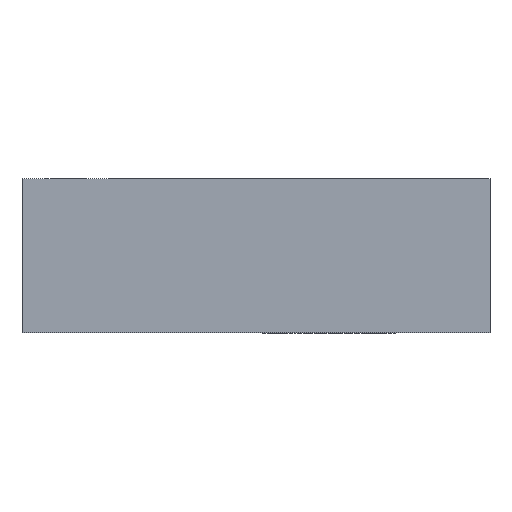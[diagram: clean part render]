
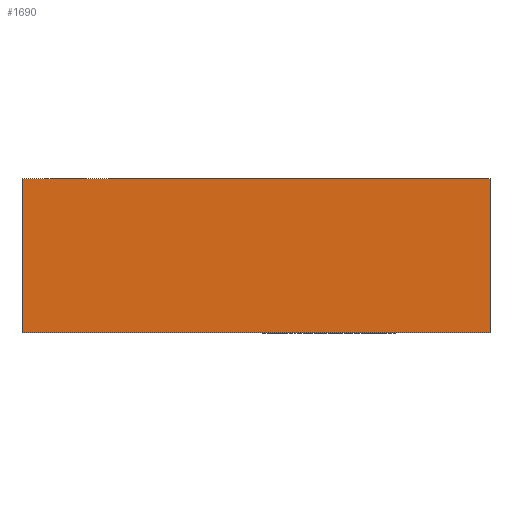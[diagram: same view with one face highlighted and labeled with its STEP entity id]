
A CAD part, top view. The second image highlights one B-rep face of the part: STEP entity #1690.
In plain terms, the highlighted planar face has unit normal (0, 0, 1).
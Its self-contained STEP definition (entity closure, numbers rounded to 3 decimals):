
#44 = PLANE('',#45);
#45 = AXIS2_PLACEMENT_3D('',#46,#47,#48);
#46 = CARTESIAN_POINT('',(35.2,4.5,0.));
#47 = DIRECTION('',(-0.,1.,0.));
#48 = DIRECTION('',(0.,0.,1.));
#352 = VERTEX_POINT('',#353);
#353 = CARTESIAN_POINT('',(10.5,4.5,27.2));
#367 = PLANE('',#368);
#368 = AXIS2_PLACEMENT_3D('',#369,#370,#371);
#369 = CARTESIAN_POINT('',(10.5,4.5,21.2));
#370 = DIRECTION('',(1.,0.,-0.));
#371 = DIRECTION('',(0.,0.,1.));
#379 = EDGE_CURVE('',#380,#352,#382,.T.);
#380 = VERTEX_POINT('',#381);
#381 = CARTESIAN_POINT('',(58.5,4.5,27.2));
#382 = SURFACE_CURVE('',#383,(#387,#394),.PCURVE_S1.);
#383 = LINE('',#384,#385);
#384 = CARTESIAN_POINT('',(58.5,4.5,27.2));
#385 = VECTOR('',#386,1.);
#386 = DIRECTION('',(-1.,0.,0.));
#387 = PCURVE('',#44,#388);
#388 = DEFINITIONAL_REPRESENTATION('',(#389),#393);
#389 = LINE('',#390,#391);
#390 = CARTESIAN_POINT('',(27.2,23.3));
#391 = VECTOR('',#392,1.);
#392 = DIRECTION('',(0.,-1.));
#393 = ( GEOMETRIC_REPRESENTATION_CONTEXT(2) 
PARAMETRIC_REPRESENTATION_CONTEXT() REPRESENTATION_CONTEXT('2D SPACE',''
  ) );
#394 = PCURVE('',#395,#400);
#395 = PLANE('',#396);
#396 = AXIS2_PLACEMENT_3D('',#397,#398,#399);
#397 = CARTESIAN_POINT('',(35.2,4.5,27.2));
#398 = DIRECTION('',(0.,0.,1.));
#399 = DIRECTION('',(1.,0.,-0.));
#400 = DEFINITIONAL_REPRESENTATION('',(#401),#405);
#401 = LINE('',#402,#403);
#402 = CARTESIAN_POINT('',(23.3,0.));
#403 = VECTOR('',#404,1.);
#404 = DIRECTION('',(-1.,0.));
#405 = ( GEOMETRIC_REPRESENTATION_CONTEXT(2) 
PARAMETRIC_REPRESENTATION_CONTEXT() REPRESENTATION_CONTEXT('2D SPACE',''
  ) );
#423 = PLANE('',#424);
#424 = AXIS2_PLACEMENT_3D('',#425,#426,#427);
#425 = CARTESIAN_POINT('',(58.5,4.5,21.2));
#426 = DIRECTION('',(1.,0.,-0.));
#427 = DIRECTION('',(0.,0.,1.));
#665 = PLANE('',#666);
#666 = AXIS2_PLACEMENT_3D('',#667,#668,#669);
#667 = CARTESIAN_POINT('',(10.5,20.3,21.2));
#668 = DIRECTION('',(-0.,1.,0.));
#669 = DIRECTION('',(0.,0.,1.));
#1594 = EDGE_CURVE('',#352,#1595,#1597,.T.);
#1595 = VERTEX_POINT('',#1596);
#1596 = CARTESIAN_POINT('',(10.5,20.3,27.2));
#1597 = SURFACE_CURVE('',#1598,(#1602,#1609),.PCURVE_S1.);
#1598 = LINE('',#1599,#1600);
#1599 = CARTESIAN_POINT('',(10.5,4.5,27.2));
#1600 = VECTOR('',#1601,1.);
#1601 = DIRECTION('',(0.,1.,0.));
#1602 = PCURVE('',#367,#1603);
#1603 = DEFINITIONAL_REPRESENTATION('',(#1604),#1608);
#1604 = LINE('',#1605,#1606);
#1605 = CARTESIAN_POINT('',(6.,0.));
#1606 = VECTOR('',#1607,1.);
#1607 = DIRECTION('',(0.,-1.));
#1608 = ( GEOMETRIC_REPRESENTATION_CONTEXT(2) 
PARAMETRIC_REPRESENTATION_CONTEXT() REPRESENTATION_CONTEXT('2D SPACE',''
  ) );
#1609 = PCURVE('',#395,#1610);
#1610 = DEFINITIONAL_REPRESENTATION('',(#1611),#1615);
#1611 = LINE('',#1612,#1613);
#1612 = CARTESIAN_POINT('',(-24.7,0.));
#1613 = VECTOR('',#1614,1.);
#1614 = DIRECTION('',(0.,1.));
#1615 = ( GEOMETRIC_REPRESENTATION_CONTEXT(2) 
PARAMETRIC_REPRESENTATION_CONTEXT() REPRESENTATION_CONTEXT('2D SPACE',''
  ) );
#1690 = ADVANCED_FACE('',(#1691),#395,.T.);
#1691 = FACE_BOUND('',#1692,.T.);
#1692 = EDGE_LOOP('',(#1693,#1694,#1717,#1738));
#1693 = ORIENTED_EDGE('',*,*,#379,.F.);
#1694 = ORIENTED_EDGE('',*,*,#1695,.T.);
#1695 = EDGE_CURVE('',#380,#1696,#1698,.T.);
#1696 = VERTEX_POINT('',#1697);
#1697 = CARTESIAN_POINT('',(58.5,20.3,27.2));
#1698 = SURFACE_CURVE('',#1699,(#1703,#1710),.PCURVE_S1.);
#1699 = LINE('',#1700,#1701);
#1700 = CARTESIAN_POINT('',(58.5,4.5,27.2));
#1701 = VECTOR('',#1702,1.);
#1702 = DIRECTION('',(0.,1.,0.));
#1703 = PCURVE('',#395,#1704);
#1704 = DEFINITIONAL_REPRESENTATION('',(#1705),#1709);
#1705 = LINE('',#1706,#1707);
#1706 = CARTESIAN_POINT('',(23.3,0.));
#1707 = VECTOR('',#1708,1.);
#1708 = DIRECTION('',(0.,1.));
#1709 = ( GEOMETRIC_REPRESENTATION_CONTEXT(2) 
PARAMETRIC_REPRESENTATION_CONTEXT() REPRESENTATION_CONTEXT('2D SPACE',''
  ) );
#1710 = PCURVE('',#423,#1711);
#1711 = DEFINITIONAL_REPRESENTATION('',(#1712),#1716);
#1712 = LINE('',#1713,#1714);
#1713 = CARTESIAN_POINT('',(6.,0.));
#1714 = VECTOR('',#1715,1.);
#1715 = DIRECTION('',(0.,-1.));
#1716 = ( GEOMETRIC_REPRESENTATION_CONTEXT(2) 
PARAMETRIC_REPRESENTATION_CONTEXT() REPRESENTATION_CONTEXT('2D SPACE',''
  ) );
#1717 = ORIENTED_EDGE('',*,*,#1718,.T.);
#1718 = EDGE_CURVE('',#1696,#1595,#1719,.T.);
#1719 = SURFACE_CURVE('',#1720,(#1724,#1731),.PCURVE_S1.);
#1720 = LINE('',#1721,#1722);
#1721 = CARTESIAN_POINT('',(58.5,20.3,27.2));
#1722 = VECTOR('',#1723,1.);
#1723 = DIRECTION('',(-1.,0.,0.));
#1724 = PCURVE('',#395,#1725);
#1725 = DEFINITIONAL_REPRESENTATION('',(#1726),#1730);
#1726 = LINE('',#1727,#1728);
#1727 = CARTESIAN_POINT('',(23.3,15.8));
#1728 = VECTOR('',#1729,1.);
#1729 = DIRECTION('',(-1.,0.));
#1730 = ( GEOMETRIC_REPRESENTATION_CONTEXT(2) 
PARAMETRIC_REPRESENTATION_CONTEXT() REPRESENTATION_CONTEXT('2D SPACE',''
  ) );
#1731 = PCURVE('',#665,#1732);
#1732 = DEFINITIONAL_REPRESENTATION('',(#1733),#1737);
#1733 = LINE('',#1734,#1735);
#1734 = CARTESIAN_POINT('',(6.,48.));
#1735 = VECTOR('',#1736,1.);
#1736 = DIRECTION('',(0.,-1.));
#1737 = ( GEOMETRIC_REPRESENTATION_CONTEXT(2) 
PARAMETRIC_REPRESENTATION_CONTEXT() REPRESENTATION_CONTEXT('2D SPACE',''
  ) );
#1738 = ORIENTED_EDGE('',*,*,#1594,.F.);
